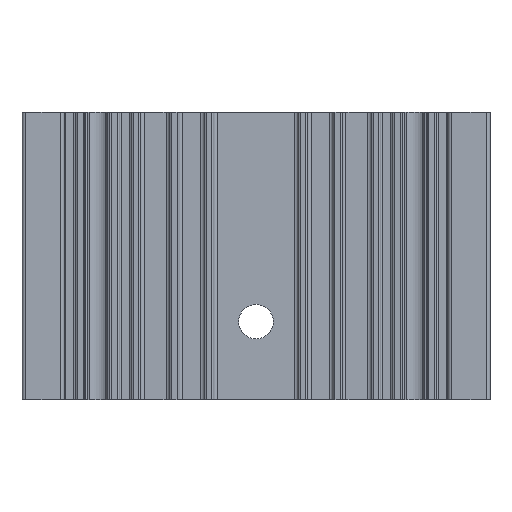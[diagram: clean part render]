
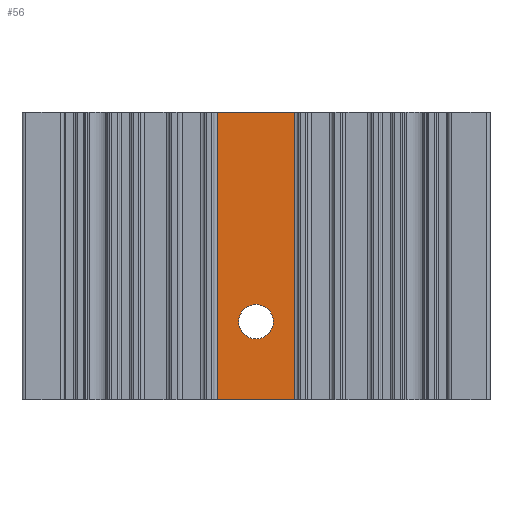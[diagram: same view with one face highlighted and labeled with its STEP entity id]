
A CAD part, front view. The second image highlights one B-rep face of the part: STEP entity #56.
In plain terms, the highlighted planar face has unit normal (0, -1, 0).
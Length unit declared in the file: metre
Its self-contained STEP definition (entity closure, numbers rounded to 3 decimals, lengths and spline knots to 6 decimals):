
#56=ADVANCED_FACE('0:9965',(#269,#270),#271,.T.);
#269=FACE_OUTER_BOUND('',#682,.T.);
#270=FACE_BOUND('',#683,.T.);
#271=PLANE('',#684);
#682=EDGE_LOOP('',(#1121,#1122,#1123,#1124));
#683=EDGE_LOOP('',(#1125,#1126));
#684=AXIS2_PLACEMENT_3D('',#1127,#1128,#1129);
#1121=ORIENTED_EDGE('',*,*,#2936,.T.);
#1122=ORIENTED_EDGE('',*,*,#2937,.F.);
#1123=ORIENTED_EDGE('',*,*,#2938,.T.);
#1124=ORIENTED_EDGE('',*,*,#2939,.T.);
#1125=ORIENTED_EDGE('',*,*,#2930,.F.);
#1126=ORIENTED_EDGE('',*,*,#2929,.F.);
#1127=CARTESIAN_POINT('',(0.073055,0.055317,0.0));
#1128=DIRECTION('',(0.0,-1.0,0.0));
#1129=DIRECTION('',(1.0,0.0,0.0));
#2929=EDGE_CURVE('4:385',#3548,#3544,#3550,.T.);
#2930=EDGE_CURVE('4:385',#3544,#3548,#3551,.T.);
#2936=EDGE_CURVE('0:10727',#3561,#3562,#3563,.T.);
#2937=EDGE_CURVE('0:10730',#3564,#3562,#3565,.T.);
#2938=EDGE_CURVE('0:10733',#3564,#3566,#3567,.T.);
#2939=EDGE_CURVE('0:10721',#3566,#3561,#3568,.T.);
#3544=VERTEX_POINT('',#4563);
#3548=VERTEX_POINT('',#4568);
#3550=CIRCLE('',#4571,0.0015);
#3551=CIRCLE('',#4572,0.0015);
#3561=VERTEX_POINT('',#4586);
#3562=VERTEX_POINT('',#4587);
#3563=LINE('',#4588,#4589);
#3564=VERTEX_POINT('',#4590);
#3565=LINE('',#4591,#4592);
#3566=VERTEX_POINT('',#4593);
#3567=LINE('',#4594,#4595);
#3568=LINE('',#4596,#4597);
#4563=CARTESIAN_POINT('',(0.074555,0.055317,0.0068));
#4568=CARTESIAN_POINT('',(0.071555,0.055317,0.0068));
#4571=AXIS2_PLACEMENT_3D('',#5969,#5970,#5971);
#4572=AXIS2_PLACEMENT_3D('',#5972,#5973,#5974);
#4586=CARTESIAN_POINT('',(0.076416,0.055317,0.025));
#4587=CARTESIAN_POINT('',(0.069695,0.055317,0.025));
#4588=CARTESIAN_POINT('',(0.069695,0.055317,0.025));
#4589=VECTOR('',#5982,1.0);
#4590=CARTESIAN_POINT('',(0.069695,0.055317,0.0));
#4591=CARTESIAN_POINT('',(0.069695,0.055317,0.0));
#4592=VECTOR('',#5983,1.0);
#4593=CARTESIAN_POINT('',(0.076416,0.055317,0.0));
#4594=CARTESIAN_POINT('',(0.069695,0.055317,0.0));
#4595=VECTOR('',#5984,1.0);
#4596=CARTESIAN_POINT('',(0.076416,0.055317,0.0));
#4597=VECTOR('',#5985,1.0);
#5969=CARTESIAN_POINT('',(0.073055,0.055317,0.0068));
#5970=DIRECTION('',(0.0,-1.0,0.0));
#5971=DIRECTION('',(-1.0,0.0,0.0));
#5972=CARTESIAN_POINT('',(0.073055,0.055317,0.0068));
#5973=DIRECTION('',(0.0,-1.0,0.0));
#5974=DIRECTION('',(-1.0,0.0,0.0));
#5982=DIRECTION('',(-1.0,-0.0,-0.0));
#5983=DIRECTION('',(0.0,0.0,1.0));
#5984=DIRECTION('',(1.0,0.0,0.0));
#5985=DIRECTION('',(0.0,0.0,1.0));
